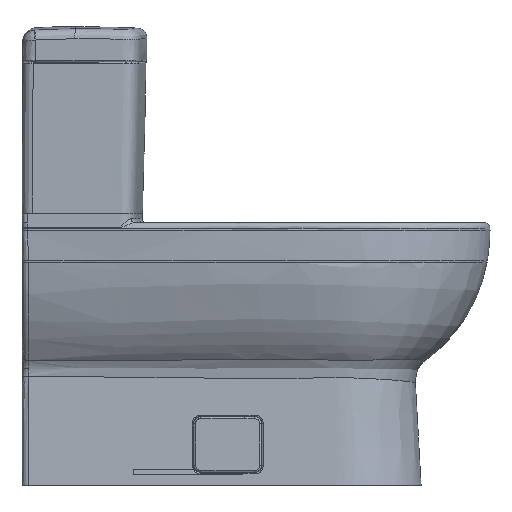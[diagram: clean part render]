
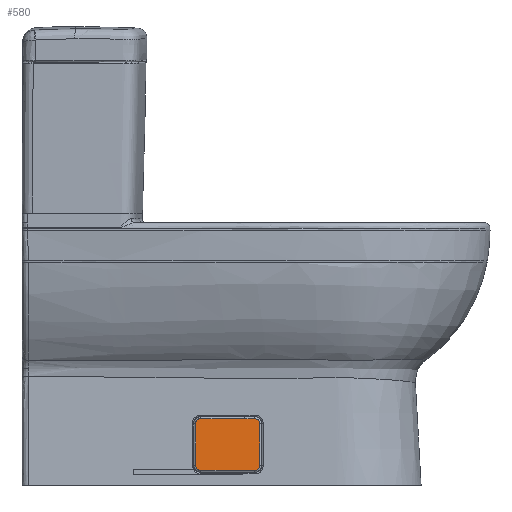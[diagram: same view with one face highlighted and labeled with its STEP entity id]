
A CAD part, left-side view. The second image highlights one B-rep face of the part: STEP entity #580.
In plain terms, the highlighted planar face has unit normal (-0.999, -0.001, 0.047).
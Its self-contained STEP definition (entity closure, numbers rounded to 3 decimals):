
#184=PLANE('',#3917);
#216=LINE('',#11114,#280);
#217=LINE('',#11123,#281);
#218=LINE('',#11132,#282);
#219=LINE('',#11141,#283);
#220=LINE('',#11143,#284);
#280=VECTOR('',#4107,1.);
#281=VECTOR('',#4108,1.);
#282=VECTOR('',#4109,1.);
#283=VECTOR('',#4110,1.);
#284=VECTOR('',#4111,1.);
#580=ADVANCED_FACE('',(#891),#184,.T.);
#891=FACE_OUTER_BOUND('',#1131,.T.);
#1131=EDGE_LOOP('',(#1459,#1460,#1461,#1462,#1463,#1464,#1465,#1466,#1467));
#1459=ORIENTED_EDGE('',*,*,#3008,.T.);
#1460=ORIENTED_EDGE('',*,*,#3009,.T.);
#1461=ORIENTED_EDGE('',*,*,#3010,.T.);
#1462=ORIENTED_EDGE('',*,*,#3011,.T.);
#1463=ORIENTED_EDGE('',*,*,#3012,.T.);
#1464=ORIENTED_EDGE('',*,*,#3013,.T.);
#1465=ORIENTED_EDGE('',*,*,#3014,.T.);
#1466=ORIENTED_EDGE('',*,*,#3015,.T.);
#1467=ORIENTED_EDGE('',*,*,#3016,.T.);
#2631=VERTEX_POINT('',#11112);
#2632=VERTEX_POINT('',#11113);
#2633=VERTEX_POINT('',#11115);
#2634=VERTEX_POINT('',#11122);
#2635=VERTEX_POINT('',#11124);
#2636=VERTEX_POINT('',#11131);
#2637=VERTEX_POINT('',#11133);
#2638=VERTEX_POINT('',#11140);
#2639=VERTEX_POINT('',#11142);
#3008=EDGE_CURVE('',#2631,#2632,#3581,.T.);
#3009=EDGE_CURVE('',#2632,#2633,#216,.T.);
#3010=EDGE_CURVE('',#2633,#2634,#3582,.T.);
#3011=EDGE_CURVE('',#2634,#2635,#217,.T.);
#3012=EDGE_CURVE('',#2635,#2636,#3583,.T.);
#3013=EDGE_CURVE('',#2636,#2637,#218,.T.);
#3014=EDGE_CURVE('',#2637,#2638,#3584,.T.);
#3015=EDGE_CURVE('',#2638,#2639,#219,.T.);
#3016=EDGE_CURVE('',#2639,#2631,#220,.T.);
#3581=B_SPLINE_CURVE_WITH_KNOTS('',3,(#11106,#11107,#11108,#11109,#11110,
#11111),.UNSPECIFIED.,.F.,.F.,(4,2,4),(0.,0.5,1.),.UNSPECIFIED.);
#3582=B_SPLINE_CURVE_WITH_KNOTS('',3,(#11116,#11117,#11118,#11119,#11120,
#11121),.UNSPECIFIED.,.F.,.F.,(4,2,4),(0.,0.5,1.),.UNSPECIFIED.);
#3583=B_SPLINE_CURVE_WITH_KNOTS('',3,(#11125,#11126,#11127,#11128,#11129,
#11130),.UNSPECIFIED.,.F.,.F.,(4,2,4),(0.,0.5,1.),.UNSPECIFIED.);
#3584=B_SPLINE_CURVE_WITH_KNOTS('',3,(#11134,#11135,#11136,#11137,#11138,
#11139),.UNSPECIFIED.,.F.,.F.,(4,2,4),(0.,0.5,1.),.UNSPECIFIED.);
#3917=AXIS2_PLACEMENT_3D('',#11144,#4112,#4113);
#4107=DIRECTION('',(-0.047,0.,-0.999));
#4108=DIRECTION('',(0.001,-1.,0.));
#4109=DIRECTION('',(0.047,0.,0.999));
#4110=DIRECTION('',(-0.001,1.,0.));
#4111=DIRECTION('',(-0.001,1.,0.));
#4112=DIRECTION('',(-0.999,-0.001,0.047));
#4113=DIRECTION('',(-0.001,1.,0.));
#11106=CARTESIAN_POINT('',(-125.253,-370.242,-355.187));
#11107=CARTESIAN_POINT('',(-125.255,-368.113,-355.187));
#11108=CARTESIAN_POINT('',(-125.296,-366.084,-356.03));
#11109=CARTESIAN_POINT('',(-125.439,-363.087,-359.024));
#11110=CARTESIAN_POINT('',(-125.535,-362.242,-361.053));
#11111=CARTESIAN_POINT('',(-125.634,-362.242,-363.178));
#11112=CARTESIAN_POINT('',(-125.253,-370.242,-355.187));
#11113=CARTESIAN_POINT('',(-125.634,-362.242,-363.178));
#11114=CARTESIAN_POINT('',(-127.104,-362.244,-394.597));
#11115=CARTESIAN_POINT('',(-128.574,-362.245,-426.016));
#11116=CARTESIAN_POINT('',(-128.574,-362.245,-426.016));
#11117=CARTESIAN_POINT('',(-128.674,-362.245,-428.143));
#11118=CARTESIAN_POINT('',(-128.768,-363.089,-430.17));
#11119=CARTESIAN_POINT('',(-128.905,-366.087,-433.164));
#11120=CARTESIAN_POINT('',(-128.943,-368.117,-434.007));
#11121=CARTESIAN_POINT('',(-128.941,-370.245,-434.008));
#11122=CARTESIAN_POINT('',(-128.941,-370.245,-434.008));
#11123=CARTESIAN_POINT('',(-128.904,-411.245,-434.009));
#11124=CARTESIAN_POINT('',(-128.867,-452.245,-434.011));
#11125=CARTESIAN_POINT('',(-128.867,-452.245,-434.011));
#11126=CARTESIAN_POINT('',(-128.865,-454.374,-434.011));
#11127=CARTESIAN_POINT('',(-128.824,-456.403,-433.168));
#11128=CARTESIAN_POINT('',(-128.681,-459.4,-430.173));
#11129=CARTESIAN_POINT('',(-128.586,-460.245,-428.145));
#11130=CARTESIAN_POINT('',(-128.486,-460.245,-426.02));
#11131=CARTESIAN_POINT('',(-128.486,-460.245,-426.02));
#11132=CARTESIAN_POINT('',(-127.016,-460.243,-394.601));
#11133=CARTESIAN_POINT('',(-125.546,-460.242,-363.182));
#11134=CARTESIAN_POINT('',(-125.546,-460.242,-363.182));
#11135=CARTESIAN_POINT('',(-125.446,-460.242,-361.055));
#11136=CARTESIAN_POINT('',(-125.352,-459.398,-359.028));
#11137=CARTESIAN_POINT('',(-125.215,-456.4,-356.034));
#11138=CARTESIAN_POINT('',(-125.177,-454.37,-355.191));
#11139=CARTESIAN_POINT('',(-125.179,-452.242,-355.19));
#11140=CARTESIAN_POINT('',(-125.179,-452.242,-355.19));
#11141=CARTESIAN_POINT('',(-125.186,-444.742,-355.19));
#11142=CARTESIAN_POINT('',(-125.193,-437.242,-355.19));
#11143=CARTESIAN_POINT('',(-125.223,-403.742,-355.188));
#11144=CARTESIAN_POINT('',(-125.224,-361.654,-354.39));
